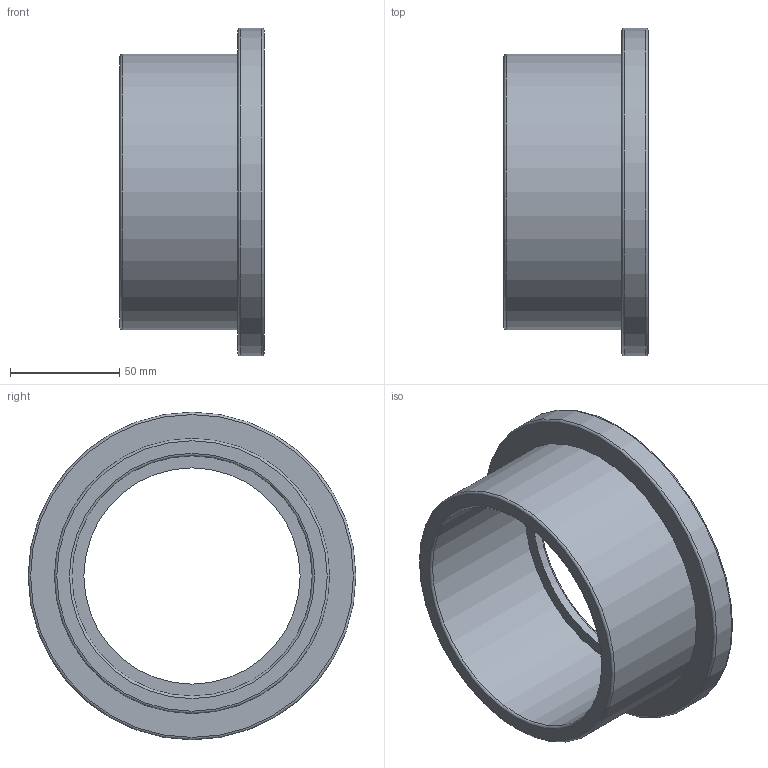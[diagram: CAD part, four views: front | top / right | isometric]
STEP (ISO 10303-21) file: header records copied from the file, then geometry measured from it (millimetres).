
FILE_DESCRIPTION(/* description */ ('PLASSON FLANGE FLAT AD.-CEM 110'),/* implementation_level */ '2;1');
FILE_NAME(/* name */ 'C:\Dropbox\KIMPROJECTS-Inventor\99-16-3568-Processing\PVC Catalog 2017\26_09_18\055100\055100110.ipt.stp',/* time_stamp */ '2018-09-27T11:50:54+03:00',/* author */ ('KIM'),/* organization */ (''),/* preprocessor_version */ 'ST-DEVELOPER v15.6',/* originating_system */ 'Autodesk Inventor 2015',/* authorisation */ '');
FILE_SCHEMA (('AUTOMOTIVE_DESIGN { 1 0 10303 214 3 1 1 }'));
Length unit declared in the file: millimetre
Products named in the file (1): 055100110
Bounding box: 66 x 150 x 150 mm (x, y, z)
Volume: 266674.1 mm3; surface area: 68670.6 mm2
Topology: 1 solids, 1 shells, 13 faces, 22 edges, 13 vertices
Faces by surface type: torus 5, cylinder 4, plane 4
Full cylindrical faces by diameter (mm): 99 x1, 110 x1, 126 x1, 150 x1
Entity records: 292 total; most frequent: DIRECTION 54, CARTESIAN_POINT 40, AXIS2_PLACEMENT_3D 27, EDGE_LOOP 26, ORIENTED_EDGE 26, FACE_BOUND 13, FACE_OUTER_BOUND 13, CIRCLE 13
